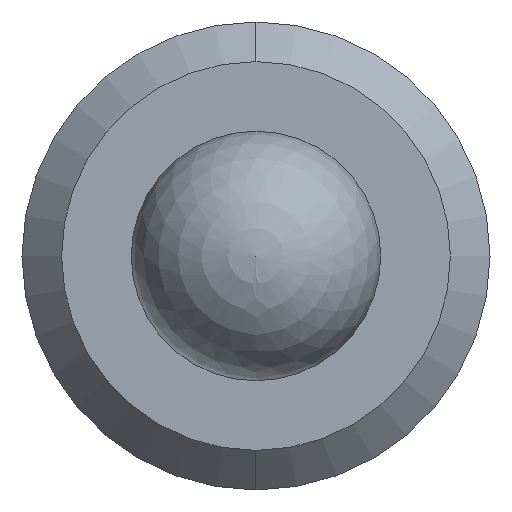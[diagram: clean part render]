
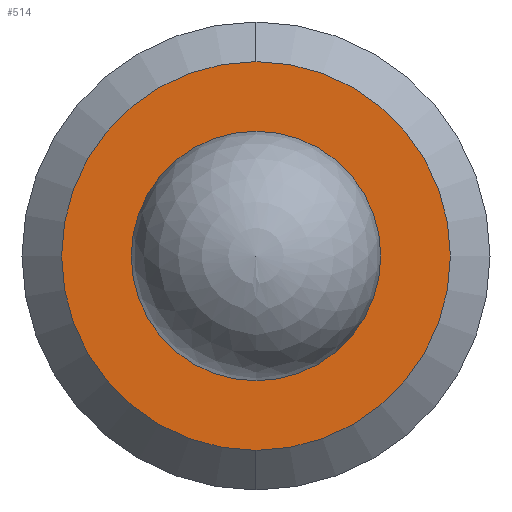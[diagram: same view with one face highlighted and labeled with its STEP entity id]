
A CAD part, left-side view. The second image highlights one B-rep face of the part: STEP entity #514.
In plain terms, the highlighted planar face has unit normal (-1, 0, 0).
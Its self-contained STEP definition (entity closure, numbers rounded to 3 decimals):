
#7 = DIRECTION ( 'NONE',  ( 0., 0., -1. ) ) ;
#16 = CARTESIAN_POINT ( 'NONE',  ( 0., 0., 0.8 ) ) ;
#48 = EDGE_LOOP ( 'NONE', ( #602, #74 ) ) ;
#50 = CARTESIAN_POINT ( 'NONE',  ( 0., 0., -0.8 ) ) ;
#74 = ORIENTED_EDGE ( 'NONE', *, *, #421, .F. ) ;
#122 = CARTESIAN_POINT ( 'NONE',  ( 0., 0., 0. ) ) ;
#170 = VERTEX_POINT ( 'NONE', #16 ) ;
#176 = FACE_OUTER_BOUND ( 'NONE', #408, .T. ) ;
#180 = CARTESIAN_POINT ( 'NONE',  ( 0., 0., -1.246 ) ) ;
#208 = FACE_BOUND ( 'NONE', #48, .T. ) ;
#220 = CARTESIAN_POINT ( 'NONE',  ( 0., 0., 1.246 ) ) ;
#224 = CARTESIAN_POINT ( 'NONE',  ( 0., 0., 0. ) ) ;
#226 = DIRECTION ( 'NONE',  ( -1., 0., 0. ) ) ;
#228 = DIRECTION ( 'NONE',  ( 0., 0., 1. ) ) ;
#229 = DIRECTION ( 'NONE',  ( 0., 0., -1. ) ) ;
#251 = CARTESIAN_POINT ( 'NONE',  ( 0., 0., 0. ) ) ;
#259 = AXIS2_PLACEMENT_3D ( 'NONE', #122, #414, #326 ) ;
#264 = CIRCLE ( 'NONE', #332, 1.246 ) ;
#273 = DIRECTION ( 'NONE',  ( -1., 0., 0. ) ) ;
#276 = ORIENTED_EDGE ( 'NONE', *, *, #454, .T. ) ;
#306 = CARTESIAN_POINT ( 'NONE',  ( 0., 0., 0. ) ) ;
#307 = DIRECTION ( 'NONE',  ( -1., 0., 0. ) ) ;
#311 = DIRECTION ( 'NONE',  ( 0., 0., 1. ) ) ;
#323 = CIRCLE ( 'NONE', #334, 1.246 ) ;
#326 = DIRECTION ( 'NONE',  ( 0., 0., -1. ) ) ;
#332 = AXIS2_PLACEMENT_3D ( 'NONE', #251, #273, #229 ) ;
#334 = AXIS2_PLACEMENT_3D ( 'NONE', #548, #576, #7 ) ;
#362 = AXIS2_PLACEMENT_3D ( 'NONE', #306, #307, #311 ) ;
#370 = EDGE_CURVE ( 'NONE', #170, #476, #379, .T. ) ;
#377 = AXIS2_PLACEMENT_3D ( 'NONE', #224, #226, #228 ) ;
#379 = CIRCLE ( 'NONE', #377, 0.8 ) ;
#390 = VERTEX_POINT ( 'NONE', #220 ) ;
#408 = EDGE_LOOP ( 'NONE', ( #429, #276 ) ) ;
#414 = DIRECTION ( 'NONE',  ( 1., 0., 0. ) ) ;
#421 = EDGE_CURVE ( 'NONE', #476, #170, #594, .T. ) ;
#424 = VERTEX_POINT ( 'NONE', #180 ) ;
#429 = ORIENTED_EDGE ( 'NONE', *, *, #477, .T. ) ;
#454 = EDGE_CURVE ( 'NONE', #390, #424, #323, .T. ) ;
#476 = VERTEX_POINT ( 'NONE', #50 ) ;
#477 = EDGE_CURVE ( 'NONE', #424, #390, #264, .T. ) ;
#514 = ADVANCED_FACE ( 'NONE', ( #208, #176 ), #575, .F. ) ;
#548 = CARTESIAN_POINT ( 'NONE',  ( 0., 0., 0. ) ) ;
#575 = PLANE ( 'NONE',  #259 ) ;
#576 = DIRECTION ( 'NONE',  ( -1., 0., 0. ) ) ;
#594 = CIRCLE ( 'NONE', #362, 0.8 ) ;
#602 = ORIENTED_EDGE ( 'NONE', *, *, #370, .F. ) ;
